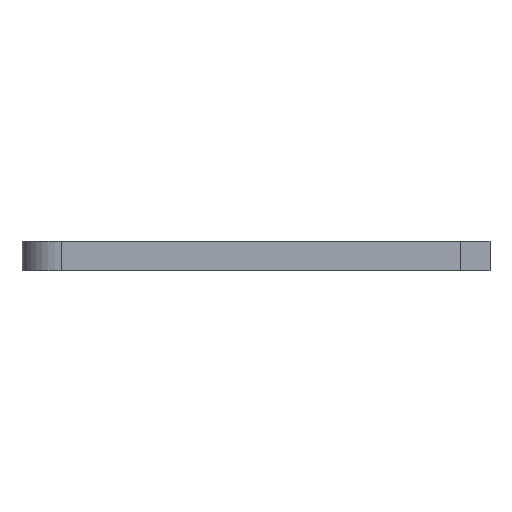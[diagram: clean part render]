
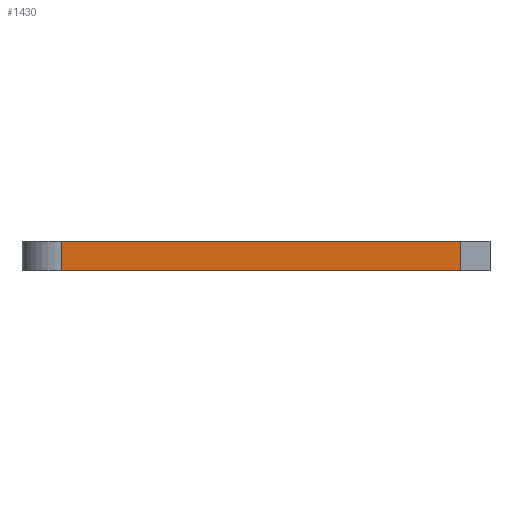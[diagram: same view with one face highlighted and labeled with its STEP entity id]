
A CAD part, front view. The second image highlights one B-rep face of the part: STEP entity #1430.
In plain terms, the highlighted planar face has unit normal (0, -1, 0).
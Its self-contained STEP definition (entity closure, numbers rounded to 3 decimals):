
#44 = PLANE('',#45);
#45 = AXIS2_PLACEMENT_3D('',#46,#47,#48);
#46 = CARTESIAN_POINT('',(0.,0.,6.));
#47 = DIRECTION('',(0.,0.,1.));
#48 = DIRECTION('',(1.,0.,0.));
#72 = CYLINDRICAL_SURFACE('',#73,8.);
#73 = AXIS2_PLACEMENT_3D('',#74,#75,#76);
#74 = CARTESIAN_POINT('',(8.,8.,0.));
#75 = DIRECTION('',(0.,0.,1.));
#76 = DIRECTION('',(-1.,-0.,0.));
#100 = PLANE('',#101);
#101 = AXIS2_PLACEMENT_3D('',#102,#103,#104);
#102 = CARTESIAN_POINT('',(0.,0.,0.));
#103 = DIRECTION('',(0.,0.,1.));
#104 = DIRECTION('',(1.,0.,0.));
#143 = VERTEX_POINT('',#144);
#144 = CARTESIAN_POINT('',(8.,0.,6.));
#166 = EDGE_CURVE('',#143,#167,#169,.T.);
#167 = VERTEX_POINT('',#168);
#168 = CARTESIAN_POINT('',(89.,0.,6.));
#169 = SURFACE_CURVE('',#170,(#174,#181),.PCURVE_S1.);
#170 = LINE('',#171,#172);
#171 = CARTESIAN_POINT('',(0.,0.,6.));
#172 = VECTOR('',#173,1.);
#173 = DIRECTION('',(1.,0.,0.));
#174 = PCURVE('',#44,#175);
#175 = DEFINITIONAL_REPRESENTATION('',(#176),#180);
#176 = LINE('',#177,#178);
#177 = CARTESIAN_POINT('',(0.,0.));
#178 = VECTOR('',#179,1.);
#179 = DIRECTION('',(1.,0.));
#180 = ( GEOMETRIC_REPRESENTATION_CONTEXT(2) 
PARAMETRIC_REPRESENTATION_CONTEXT() REPRESENTATION_CONTEXT('2D SPACE',''
  ) );
#181 = PCURVE('',#182,#187);
#182 = PLANE('',#183);
#183 = AXIS2_PLACEMENT_3D('',#184,#185,#186);
#184 = CARTESIAN_POINT('',(0.,0.,0.));
#185 = DIRECTION('',(0.,1.,0.));
#186 = DIRECTION('',(0.,0.,1.));
#187 = DEFINITIONAL_REPRESENTATION('',(#188),#192);
#188 = LINE('',#189,#190);
#189 = CARTESIAN_POINT('',(6.,0.));
#190 = VECTOR('',#191,1.);
#191 = DIRECTION('',(0.,1.));
#192 = ( GEOMETRIC_REPRESENTATION_CONTEXT(2) 
PARAMETRIC_REPRESENTATION_CONTEXT() REPRESENTATION_CONTEXT('2D SPACE',''
  ) );
#210 = PLANE('',#211);
#211 = AXIS2_PLACEMENT_3D('',#212,#213,#214);
#212 = CARTESIAN_POINT('',(89.,0.,0.));
#213 = DIRECTION('',(1.,0.,0.));
#214 = DIRECTION('',(0.,0.,1.));
#814 = VERTEX_POINT('',#815);
#815 = CARTESIAN_POINT('',(8.,0.,0.));
#837 = EDGE_CURVE('',#814,#143,#838,.T.);
#838 = SURFACE_CURVE('',#839,(#843,#850),.PCURVE_S1.);
#839 = LINE('',#840,#841);
#840 = CARTESIAN_POINT('',(8.,0.,0.));
#841 = VECTOR('',#842,1.);
#842 = DIRECTION('',(0.,0.,1.));
#843 = PCURVE('',#72,#844);
#844 = DEFINITIONAL_REPRESENTATION('',(#845),#849);
#845 = LINE('',#846,#847);
#846 = CARTESIAN_POINT('',(1.571,0.));
#847 = VECTOR('',#848,1.);
#848 = DIRECTION('',(0.,1.));
#849 = ( GEOMETRIC_REPRESENTATION_CONTEXT(2) 
PARAMETRIC_REPRESENTATION_CONTEXT() REPRESENTATION_CONTEXT('2D SPACE',''
  ) );
#850 = PCURVE('',#182,#851);
#851 = DEFINITIONAL_REPRESENTATION('',(#852),#856);
#852 = LINE('',#853,#854);
#853 = CARTESIAN_POINT('',(0.,8.));
#854 = VECTOR('',#855,1.);
#855 = DIRECTION('',(1.,0.));
#856 = ( GEOMETRIC_REPRESENTATION_CONTEXT(2) 
PARAMETRIC_REPRESENTATION_CONTEXT() REPRESENTATION_CONTEXT('2D SPACE',''
  ) );
#919 = EDGE_CURVE('',#814,#920,#922,.T.);
#920 = VERTEX_POINT('',#921);
#921 = CARTESIAN_POINT('',(89.,0.,0.));
#922 = SURFACE_CURVE('',#923,(#927,#934),.PCURVE_S1.);
#923 = LINE('',#924,#925);
#924 = CARTESIAN_POINT('',(0.,0.,0.));
#925 = VECTOR('',#926,1.);
#926 = DIRECTION('',(1.,0.,0.));
#927 = PCURVE('',#100,#928);
#928 = DEFINITIONAL_REPRESENTATION('',(#929),#933);
#929 = LINE('',#930,#931);
#930 = CARTESIAN_POINT('',(0.,0.));
#931 = VECTOR('',#932,1.);
#932 = DIRECTION('',(1.,0.));
#933 = ( GEOMETRIC_REPRESENTATION_CONTEXT(2) 
PARAMETRIC_REPRESENTATION_CONTEXT() REPRESENTATION_CONTEXT('2D SPACE',''
  ) );
#934 = PCURVE('',#182,#935);
#935 = DEFINITIONAL_REPRESENTATION('',(#936),#940);
#936 = LINE('',#937,#938);
#937 = CARTESIAN_POINT('',(0.,0.));
#938 = VECTOR('',#939,1.);
#939 = DIRECTION('',(0.,1.));
#940 = ( GEOMETRIC_REPRESENTATION_CONTEXT(2) 
PARAMETRIC_REPRESENTATION_CONTEXT() REPRESENTATION_CONTEXT('2D SPACE',''
  ) );
#1430 = ADVANCED_FACE('',(#1431),#182,.F.);
#1431 = FACE_BOUND('',#1432,.F.);
#1432 = EDGE_LOOP('',(#1433,#1434,#1435,#1436));
#1433 = ORIENTED_EDGE('',*,*,#919,.F.);
#1434 = ORIENTED_EDGE('',*,*,#837,.T.);
#1435 = ORIENTED_EDGE('',*,*,#166,.T.);
#1436 = ORIENTED_EDGE('',*,*,#1437,.F.);
#1437 = EDGE_CURVE('',#920,#167,#1438,.T.);
#1438 = SURFACE_CURVE('',#1439,(#1443,#1450),.PCURVE_S1.);
#1439 = LINE('',#1440,#1441);
#1440 = CARTESIAN_POINT('',(89.,0.,0.));
#1441 = VECTOR('',#1442,1.);
#1442 = DIRECTION('',(0.,0.,1.));
#1443 = PCURVE('',#182,#1444);
#1444 = DEFINITIONAL_REPRESENTATION('',(#1445),#1449);
#1445 = LINE('',#1446,#1447);
#1446 = CARTESIAN_POINT('',(0.,89.));
#1447 = VECTOR('',#1448,1.);
#1448 = DIRECTION('',(1.,0.));
#1449 = ( GEOMETRIC_REPRESENTATION_CONTEXT(2) 
PARAMETRIC_REPRESENTATION_CONTEXT() REPRESENTATION_CONTEXT('2D SPACE',''
  ) );
#1450 = PCURVE('',#210,#1451);
#1451 = DEFINITIONAL_REPRESENTATION('',(#1452),#1456);
#1452 = LINE('',#1453,#1454);
#1453 = CARTESIAN_POINT('',(0.,0.));
#1454 = VECTOR('',#1455,1.);
#1455 = DIRECTION('',(1.,0.));
#1456 = ( GEOMETRIC_REPRESENTATION_CONTEXT(2) 
PARAMETRIC_REPRESENTATION_CONTEXT() REPRESENTATION_CONTEXT('2D SPACE',''
  ) );
